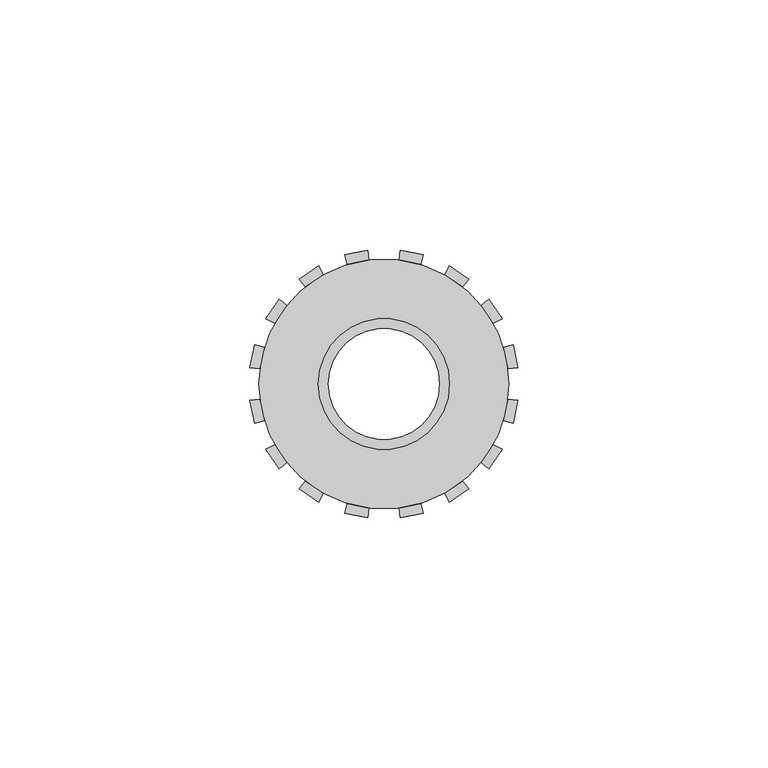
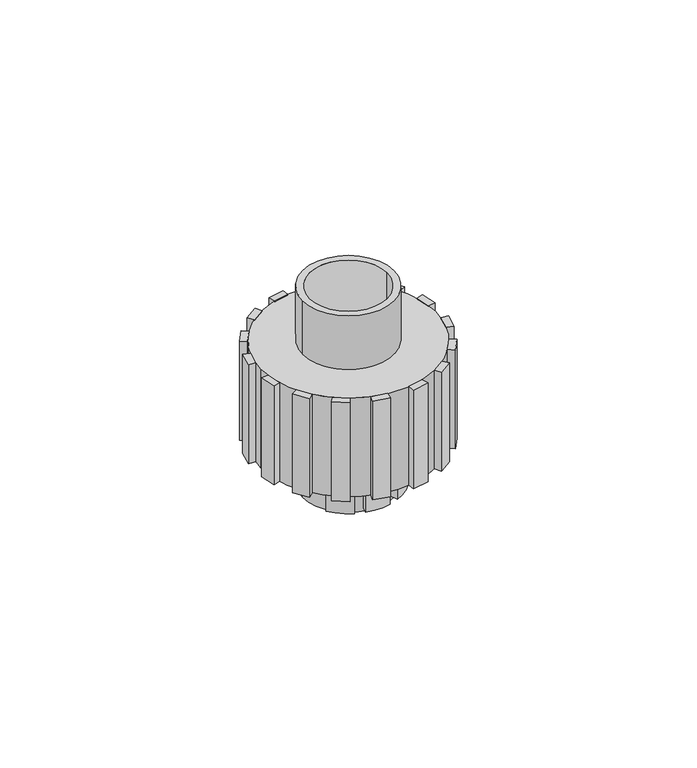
"""IFC4 building model written with IfcOpenShell, lengths in millimetres: valve geometry, Tuerca Union_Lubrizol_CPVC_FlowGuard_MX 19mm : Tuerca Union_Lubrizol_CPVC_FlowGuard_MX 19mm."""

from ifc_helpers import new_model, si_unit, point, frame, origin, origin_with_axes, origin_2d, place, context, project, spatial, polyline, circle_curve, trimmed, segment, composite_curve, outline, extrude, source, transform, mapped, element, save


def valve_8cdd0a93(model_context):
    return source(origin(), model_context, "Body", "SweptSolid", [
        extrude(outline(composite_curve([segment(polyline([(-3.0493554, 12.7401504), (-3.5671557, 14.6726071)]), True, "CONTINUOUS"), segment(trimmed(circle_curve(origin_2d(), 15.1), [point((-3.5671557, 14.6726071))], [point((3.5671557, 14.6726071))], False, "CARTESIAN"), True, "CONTINUOUS"), segment(polyline([(3.5671557, 14.6726071), (3.0493554, 12.7401504)]), True, "CONTINUOUS"), segment(trimmed(circle_curve(origin_2d(), 13.1), [point((3.0493554, 12.7401504))], [point((-3.0493554, 12.7401504))], True, "CARTESIAN"), True, "CONTINUOUS")], self_intersect=False)), frame((0.0, 0.0, 1.0184482), z_axis=(0.0, 0.0, 1.0), x_axis=(1.0, 0.0, 0.0)), (0.0, 0.0, 1.0), 12.0420847),
        extrude(outline(composite_curve([segment(trimmed(circle_curve(origin_2d(), 13.1), [point((-5.4406949, 11.9167462))], [point((-10.2465446, 8.1620048))], True, "CARTESIAN"), True, "CONTINUOUS"), segment(polyline([(-10.2465446, 8.1620048), (-11.844316, 9.3660119)]), True, "CONTINUOUS"), segment(trimmed(circle_curve(origin_2d(), 15.1), [point((-11.844316, 9.3660119))], [point((-6.2224019, 13.7583325))], False, "CARTESIAN"), True, "CONTINUOUS"), segment(polyline([(-6.2224019, 13.7583325), (-5.4406949, 11.9167462)]), True, "CONTINUOUS")], self_intersect=False)), frame((0.0, 0.0, 1.0184482), z_axis=(0.0, 0.0, 1.0), x_axis=(1.0, 0.0, 0.0)), (0.0, 0.0, 1.0), 12.0420847),
        extrude(outline(composite_curve([segment(polyline([(5.4406949, 11.9167462), (6.2224019, 13.7583325)]), True, "CONTINUOUS"), segment(trimmed(circle_curve(origin_2d(), 15.1), [point((6.2224019, 13.7583325))], [point((11.844316, 9.3660119))], False, "CARTESIAN"), True, "CONTINUOUS"), segment(polyline([(11.844316, 9.3660119), (10.2465446, 8.1620048)]), True, "CONTINUOUS"), segment(trimmed(circle_curve(origin_2d(), 13.1), [point((10.2465446, 8.1620048))], [point((5.4406949, 11.9167462))], True, "CARTESIAN"), True, "CONTINUOUS")], self_intersect=False)), frame((0.0, 0.0, 1.0184482), z_axis=(0.0, 0.0, 1.0), x_axis=(1.0, 0.0, 0.0)), (0.0, 0.0, 1.0), 12.0420847),
        extrude(outline(composite_curve([segment(trimmed(circle_curve(origin_2d(), 13.1), [point((-3.0493554, -12.7401504))], [point((3.0493554, -12.7401504))], True, "CARTESIAN"), True, "CONTINUOUS"), segment(polyline([(3.0493554, -12.7401504), (3.5671557, -14.6726071)]), True, "CONTINUOUS"), segment(trimmed(circle_curve(origin_2d(), 15.1), [point((3.5671557, -14.6726071))], [point((-3.5671557, -14.6726071))], False, "CARTESIAN"), True, "CONTINUOUS"), segment(polyline([(-3.5671557, -14.6726071), (-3.0493554, -12.7401504)]), True, "CONTINUOUS")], self_intersect=False)), frame((0.0, 0.0, 1.0184482), z_axis=(0.0, 0.0, 1.0), x_axis=(1.0, 0.0, 0.0)), (0.0, 0.0, 1.0), 12.0420847),
        extrude(outline(composite_curve([segment(polyline([(-5.4406949, -11.9167462), (-6.2224019, -13.7583325)]), True, "CONTINUOUS"), segment(trimmed(circle_curve(origin_2d(), 15.1), [point((-6.2224019, -13.7583325))], [point((-11.844316, -9.3660119))], False, "CARTESIAN"), True, "CONTINUOUS"), segment(polyline([(-11.844316, -9.3660119), (-10.2465446, -8.1620048)]), True, "CONTINUOUS"), segment(trimmed(circle_curve(origin_2d(), 13.1), [point((-10.2465446, -8.1620048))], [point((-5.4406949, -11.9167462))], True, "CARTESIAN"), True, "CONTINUOUS")], self_intersect=False)), frame((0.0, 0.0, 1.0184482), z_axis=(0.0, 0.0, 1.0), x_axis=(1.0, 0.0, 0.0)), (0.0, 0.0, 1.0), 12.0420847),
        extrude(outline(composite_curve([segment(trimmed(circle_curve(origin_2d(), 13.1), [point((5.4406949, -11.9167462))], [point((10.2465446, -8.1620048))], True, "CARTESIAN"), True, "CONTINUOUS"), segment(polyline([(10.2465446, -8.1620048), (11.844316, -9.3660119)]), True, "CONTINUOUS"), segment(trimmed(circle_curve(origin_2d(), 15.1), [point((11.844316, -9.3660119))], [point((6.2224019, -13.7583325))], False, "CARTESIAN"), True, "CONTINUOUS"), segment(polyline([(6.2224019, -13.7583325), (5.4406949, -11.9167462)]), True, "CONTINUOUS")], self_intersect=False)), frame((0.0, 0.0, 1.0184482), z_axis=(0.0, 0.0, 1.0), x_axis=(1.0, 0.0, 0.0)), (0.0, 0.0, 1.0), 12.0420847),
        extrude(outline(composite_curve([segment(polyline([(-15.7330098, 19.428649), (-16.9916506, 20.982941)]), True, "CONTINUOUS"), segment(trimmed(circle_curve(origin_2d(), 27.0), [point((-16.9916506, 20.982941))], [point((-13.0898597, 23.6147321))], False, "CARTESIAN"), True, "CONTINUOUS"), segment(polyline([(-13.0898597, 23.6147321), (-12.1202405, 21.8654927)]), True, "CONTINUOUS"), segment(trimmed(circle_curve(origin_2d(), 25.0), [point((-12.1202405, 21.8654927))], [point((-15.7330098, 19.428649))], True, "CARTESIAN"), True, "CONTINUOUS")], self_intersect=False)), frame((0.0, 0.0, 13.0605328), z_axis=(0.0, 0.0, 1.0), x_axis=(1.0, 0.0, 0.0)), (0.0, 0.0, 1.0), 30.0),
        extrude(outline(composite_curve([segment(trimmed(circle_curve(origin_2d(), 25.0), [point((-3.0467336, 24.8136538))], [point((-7.3092926, 23.9076189))], True, "CARTESIAN"), True, "CONTINUOUS"), segment(polyline([(-7.3092926, 23.9076189), (-7.894036, 25.8202284)]), True, "CONTINUOUS"), segment(trimmed(circle_curve(origin_2d(), 27.0), [point((-7.894036, 25.8202284))], [point((-3.2904723, 26.7987461))], False, "CARTESIAN"), True, "CONTINUOUS"), segment(polyline([(-3.2904723, 26.7987461), (-3.0467336, 24.8136538)]), True, "CONTINUOUS")], self_intersect=False)), frame((0.0, 0.0, 13.0605328), z_axis=(0.0, 0.0, 1.0), x_axis=(1.0, 0.0, 0.0)), (0.0, 0.0, 1.0), 30.0),
        extrude(outline(composite_curve([segment(trimmed(circle_curve(origin_2d(), 25.0), [point((-19.428649, 15.7330098))], [point((-21.8654927, 12.1202405))], True, "CARTESIAN"), True, "CONTINUOUS"), segment(polyline([(-21.8654927, 12.1202405), (-23.6147321, 13.0898597)]), True, "CONTINUOUS"), segment(trimmed(circle_curve(origin_2d(), 27.0), [point((-23.6147321, 13.0898597))], [point((-20.982941, 16.9916506))], False, "CARTESIAN"), True, "CONTINUOUS"), segment(polyline([(-20.982941, 16.9916506), (-19.428649, 15.7330098)]), True, "CONTINUOUS")], self_intersect=False)), frame((0.0, 0.0, 13.0605328), z_axis=(0.0, 0.0, 1.0), x_axis=(1.0, 0.0, 0.0)), (0.0, 0.0, 1.0), 30.0),
        extrude(outline(composite_curve([segment(polyline([(-24.8136538, 3.0467336), (-26.7987461, 3.2904723)]), True, "CONTINUOUS"), segment(trimmed(circle_curve(origin_2d(), 27.0), [point((-26.7987461, 3.2904723))], [point((-25.8202284, 7.894036))], False, "CARTESIAN"), True, "CONTINUOUS"), segment(polyline([(-25.8202284, 7.894036), (-23.9076189, 7.3092926)]), True, "CONTINUOUS"), segment(trimmed(circle_curve(origin_2d(), 25.0), [point((-23.9076189, 7.3092926))], [point((-24.8136538, 3.0467336))], True, "CARTESIAN"), True, "CONTINUOUS")], self_intersect=False)), frame((0.0, 0.0, 13.0605328), z_axis=(0.0, 0.0, 1.0), x_axis=(1.0, 0.0, 0.0)), (0.0, 0.0, 1.0), 30.0),
        extrude(outline(composite_curve([segment(trimmed(circle_curve(origin_2d(), 25.0), [point((15.7330098, 19.428649))], [point((12.1202405, 21.8654927))], True, "CARTESIAN"), True, "CONTINUOUS"), segment(polyline([(12.1202405, 21.8654927), (13.0898597, 23.6147321)]), True, "CONTINUOUS"), segment(trimmed(circle_curve(origin_2d(), 27.0), [point((13.0898597, 23.6147321))], [point((16.9916506, 20.982941))], False, "CARTESIAN"), True, "CONTINUOUS"), segment(polyline([(16.9916506, 20.982941), (15.7330098, 19.428649)]), True, "CONTINUOUS")], self_intersect=False)), frame((0.0, 0.0, 13.0605328), z_axis=(0.0, 0.0, 1.0), x_axis=(1.0, 0.0, 0.0)), (0.0, 0.0, 1.0), 30.0),
        extrude(outline(composite_curve([segment(polyline([(3.0467336, 24.8136538), (3.2904723, 26.7987461)]), True, "CONTINUOUS"), segment(trimmed(circle_curve(origin_2d(), 27.0), [point((3.2904723, 26.7987461))], [point((7.894036, 25.8202284))], False, "CARTESIAN"), True, "CONTINUOUS"), segment(polyline([(7.894036, 25.8202284), (7.3092926, 23.9076189)]), True, "CONTINUOUS"), segment(trimmed(circle_curve(origin_2d(), 25.0), [point((7.3092926, 23.9076189))], [point((3.0467336, 24.8136538))], True, "CARTESIAN"), True, "CONTINUOUS")], self_intersect=False)), frame((0.0, 0.0, 13.0605328), z_axis=(0.0, 0.0, 1.0), x_axis=(1.0, 0.0, 0.0)), (0.0, 0.0, 1.0), 30.0),
        extrude(outline(composite_curve([segment(polyline([(19.428649, 15.7330098), (20.982941, 16.9916506)]), True, "CONTINUOUS"), segment(trimmed(circle_curve(origin_2d(), 27.0), [point((20.982941, 16.9916506))], [point((23.6147321, 13.0898597))], False, "CARTESIAN"), True, "CONTINUOUS"), segment(polyline([(23.6147321, 13.0898597), (21.8654927, 12.1202405)]), True, "CONTINUOUS"), segment(trimmed(circle_curve(origin_2d(), 25.0), [point((21.8654927, 12.1202405))], [point((19.428649, 15.7330098))], True, "CARTESIAN"), True, "CONTINUOUS")], self_intersect=False)), frame((0.0, 0.0, 13.0605328), z_axis=(0.0, 0.0, 1.0), x_axis=(1.0, 0.0, 0.0)), (0.0, 0.0, 1.0), 30.0),
        extrude(outline(composite_curve([segment(trimmed(circle_curve(origin_2d(), 25.0), [point((24.8136538, 3.0467336))], [point((23.9076189, 7.3092926))], True, "CARTESIAN"), True, "CONTINUOUS"), segment(polyline([(23.9076189, 7.3092926), (25.8202284, 7.894036)]), True, "CONTINUOUS"), segment(trimmed(circle_curve(origin_2d(), 27.0), [point((25.8202284, 7.894036))], [point((26.7987461, 3.2904723))], False, "CARTESIAN"), True, "CONTINUOUS"), segment(polyline([(26.7987461, 3.2904723), (24.8136538, 3.0467336)]), True, "CONTINUOUS")], self_intersect=False)), frame((0.0, 0.0, 13.0605328), z_axis=(0.0, 0.0, 1.0), x_axis=(1.0, 0.0, 0.0)), (0.0, 0.0, 1.0), 30.0),
        extrude(outline(composite_curve([segment(trimmed(circle_curve(origin_2d(), 25.0), [point((-15.7330098, -19.428649))], [point((-12.1202405, -21.8654927))], True, "CARTESIAN"), True, "CONTINUOUS"), segment(polyline([(-12.1202405, -21.8654927), (-13.0898597, -23.6147321)]), True, "CONTINUOUS"), segment(trimmed(circle_curve(origin_2d(), 27.0), [point((-13.0898597, -23.6147321))], [point((-16.9916506, -20.982941))], False, "CARTESIAN"), True, "CONTINUOUS"), segment(polyline([(-16.9916506, -20.982941), (-15.7330098, -19.428649)]), True, "CONTINUOUS")], self_intersect=False)), frame((0.0, 0.0, 13.0605328), z_axis=(0.0, 0.0, 1.0), x_axis=(1.0, 0.0, 0.0)), (0.0, 0.0, 1.0), 30.0),
        extrude(outline(composite_curve([segment(polyline([(-3.0467336, -24.8136538), (-3.2904723, -26.7987461)]), True, "CONTINUOUS"), segment(trimmed(circle_curve(origin_2d(), 27.0), [point((-3.2904723, -26.7987461))], [point((-7.894036, -25.8202284))], False, "CARTESIAN"), True, "CONTINUOUS"), segment(polyline([(-7.894036, -25.8202284), (-7.3092926, -23.9076189)]), True, "CONTINUOUS"), segment(trimmed(circle_curve(origin_2d(), 25.0), [point((-7.3092926, -23.9076189))], [point((-3.0467336, -24.8136538))], True, "CARTESIAN"), True, "CONTINUOUS")], self_intersect=False)), frame((0.0, 0.0, 13.0605328), z_axis=(0.0, 0.0, 1.0), x_axis=(1.0, 0.0, 0.0)), (0.0, 0.0, 1.0), 30.0),
        extrude(outline(composite_curve([segment(polyline([(-19.428649, -15.7330098), (-20.982941, -16.9916506)]), True, "CONTINUOUS"), segment(trimmed(circle_curve(origin_2d(), 27.0), [point((-20.982941, -16.9916506))], [point((-23.6147321, -13.0898597))], False, "CARTESIAN"), True, "CONTINUOUS"), segment(polyline([(-23.6147321, -13.0898597), (-21.8654927, -12.1202405)]), True, "CONTINUOUS"), segment(trimmed(circle_curve(origin_2d(), 25.0), [point((-21.8654927, -12.1202405))], [point((-19.428649, -15.7330098))], True, "CARTESIAN"), True, "CONTINUOUS")], self_intersect=False)), frame((0.0, 0.0, 13.0605328), z_axis=(0.0, 0.0, 1.0), x_axis=(1.0, 0.0, 0.0)), (0.0, 0.0, 1.0), 30.0),
        extrude(outline(composite_curve([segment(trimmed(circle_curve(origin_2d(), 25.0), [point((-24.8136538, -3.0467336))], [point((-23.9076189, -7.3092926))], True, "CARTESIAN"), True, "CONTINUOUS"), segment(polyline([(-23.9076189, -7.3092926), (-25.8202284, -7.894036)]), True, "CONTINUOUS"), segment(trimmed(circle_curve(origin_2d(), 27.0), [point((-25.8202284, -7.894036))], [point((-26.7987461, -3.2904723))], False, "CARTESIAN"), True, "CONTINUOUS"), segment(polyline([(-26.7987461, -3.2904723), (-24.8136538, -3.0467336)]), True, "CONTINUOUS")], self_intersect=False)), frame((0.0, 0.0, 13.0605328), z_axis=(0.0, 0.0, 1.0), x_axis=(1.0, 0.0, 0.0)), (0.0, 0.0, 1.0), 30.0),
        extrude(outline(composite_curve([segment(polyline([(15.7330098, -19.428649), (16.9916506, -20.982941)]), True, "CONTINUOUS"), segment(trimmed(circle_curve(origin_2d(), 27.0), [point((16.9916506, -20.982941))], [point((13.0898597, -23.6147321))], False, "CARTESIAN"), True, "CONTINUOUS"), segment(polyline([(13.0898597, -23.6147321), (12.1202405, -21.8654927)]), True, "CONTINUOUS"), segment(trimmed(circle_curve(origin_2d(), 25.0), [point((12.1202405, -21.8654927))], [point((15.7330098, -19.428649))], True, "CARTESIAN"), True, "CONTINUOUS")], self_intersect=False)), frame((0.0, 0.0, 13.0605328), z_axis=(0.0, 0.0, 1.0), x_axis=(1.0, 0.0, 0.0)), (0.0, 0.0, 1.0), 30.0),
        extrude(outline(composite_curve([segment(trimmed(circle_curve(origin_2d(), 25.0), [point((3.0467336, -24.8136538))], [point((7.3092926, -23.9076189))], True, "CARTESIAN"), True, "CONTINUOUS"), segment(polyline([(7.3092926, -23.9076189), (7.894036, -25.8202284)]), True, "CONTINUOUS"), segment(trimmed(circle_curve(origin_2d(), 27.0), [point((7.894036, -25.8202284))], [point((3.2904723, -26.7987461))], False, "CARTESIAN"), True, "CONTINUOUS"), segment(polyline([(3.2904723, -26.7987461), (3.0467336, -24.8136538)]), True, "CONTINUOUS")], self_intersect=False)), frame((0.0, 0.0, 13.0605328), z_axis=(0.0, 0.0, 1.0), x_axis=(1.0, 0.0, 0.0)), (0.0, 0.0, 1.0), 30.0),
        extrude(outline(composite_curve([segment(trimmed(circle_curve(origin_2d(), 25.0), [point((19.428649, -15.7330098))], [point((21.8654927, -12.1202405))], True, "CARTESIAN"), True, "CONTINUOUS"), segment(polyline([(21.8654927, -12.1202405), (23.6147321, -13.0898597)]), True, "CONTINUOUS"), segment(trimmed(circle_curve(origin_2d(), 27.0), [point((23.6147321, -13.0898597))], [point((20.982941, -16.9916506))], False, "CARTESIAN"), True, "CONTINUOUS"), segment(polyline([(20.982941, -16.9916506), (19.428649, -15.7330098)]), True, "CONTINUOUS")], self_intersect=False)), frame((0.0, 0.0, 13.0605328), z_axis=(0.0, 0.0, 1.0), x_axis=(1.0, 0.0, 0.0)), (0.0, 0.0, 1.0), 30.0),
        extrude(outline(composite_curve([segment(polyline([(24.8136538, -3.0467336), (26.7987461, -3.2904723)]), True, "CONTINUOUS"), segment(trimmed(circle_curve(origin_2d(), 27.0), [point((26.7987461, -3.2904723))], [point((25.8202284, -7.894036))], False, "CARTESIAN"), True, "CONTINUOUS"), segment(polyline([(25.8202284, -7.894036), (23.9076189, -7.3092926)]), True, "CONTINUOUS"), segment(trimmed(circle_curve(origin_2d(), 25.0), [point((23.9076189, -7.3092926))], [point((24.8136538, -3.0467336))], True, "CARTESIAN"), True, "CONTINUOUS")], self_intersect=False)), frame((0.0, 0.0, 13.0605328), z_axis=(0.0, 0.0, 1.0), x_axis=(1.0, 0.0, 0.0)), (0.0, 0.0, 1.0), 30.0),
        extrude(outline(composite_curve([segment(trimmed(circle_curve(origin_2d(), 13.1), [point((-13.1, 0.0))], [point((13.1, 0.0))], False, "CARTESIAN"), True, "CONTINUOUS"), segment(trimmed(circle_curve(origin_2d(), 13.1), [point((13.1, 0.0))], [point((-13.1, 0.0))], False, "CARTESIAN"), True, "CONTINUOUS")], self_intersect=False), holes=[composite_curve([segment(trimmed(circle_curve(origin_2d(), 11.1), [point((-11.1, 0.0))], [point((11.1, 0.0))], True, "CARTESIAN"), True, "CONTINUOUS"), segment(trimmed(circle_curve(origin_2d(), 11.1), [point((11.1, 0.0))], [point((-11.1, 0.0))], True, "CARTESIAN"), True, "CONTINUOUS")], self_intersect=False)]), origin_with_axes(), (0.0, 0.0, 1.0), 13.0605328),
        extrude(outline(composite_curve([segment(trimmed(circle_curve(origin_2d(), 25.0), [point((-25.0, 0.0))], [point((25.0, 0.0))], False, "CARTESIAN"), True, "CONTINUOUS"), segment(trimmed(circle_curve(origin_2d(), 25.0), [point((25.0, 0.0))], [point((-25.0, 0.0))], False, "CARTESIAN"), True, "CONTINUOUS")], self_intersect=False), holes=[composite_curve([segment(trimmed(circle_curve(origin_2d(), 11.1), [point((-11.1, 0.0))], [point((11.1, 0.0))], True, "CARTESIAN"), True, "CONTINUOUS"), segment(trimmed(circle_curve(origin_2d(), 11.1), [point((11.1, 0.0))], [point((-11.1, 0.0))], True, "CARTESIAN"), True, "CONTINUOUS")], self_intersect=False)]), frame((0.0, 0.0, 13.0605328), z_axis=(0.0, 0.0, 1.0), x_axis=(1.0, 0.0, 0.0)), (0.0, 0.0, 1.0), 30.0),
        extrude(outline(composite_curve([segment(trimmed(circle_curve(origin_2d(), 13.1), [point((-13.1, 0.0))], [point((13.1, 0.0))], False, "CARTESIAN"), True, "CONTINUOUS"), segment(trimmed(circle_curve(origin_2d(), 13.1), [point((13.1, 0.0))], [point((-13.1, 0.0))], False, "CARTESIAN"), True, "CONTINUOUS")], self_intersect=False), holes=[composite_curve([segment(trimmed(circle_curve(origin_2d(), 11.1), [point((-11.1, 0.0))], [point((11.1, 0.0))], True, "CARTESIAN"), True, "CONTINUOUS"), segment(trimmed(circle_curve(origin_2d(), 11.1), [point((11.1, 0.0))], [point((-11.1, 0.0))], True, "CARTESIAN"), True, "CONTINUOUS")], self_intersect=False)]), frame((0.0, 0.0, 43.0605328), z_axis=(0.0, 0.0, 1.0), x_axis=(1.0, 0.0, 0.0)), (0.0, 0.0, 1.0), 16.5641824),
    ])


if __name__ == "__main__":
    model = new_model("IFC4")
    model_context = context("Model", 3, world=origin())
    ifc_project = project(units=[si_unit("LENGTHUNIT", "METRE", prefix="MILLI")], contexts=[model_context])
    site = spatial("IfcSite", under=ifc_project)
    building = spatial("IfcBuilding", under=site)
    placement = place(None, origin())
    valve_shape = valve_8cdd0a93(model_context)
    element("IfcValve", 1, ObjectType="Tuerca Union_Lubrizol_CPVC_FlowGuard_MX 19mm : Tuerca Union_Lubrizol_CPVC_FlowGuard_MX 19mm", at=placement, inside=building, context=model_context, shape_type="MappedRepresentation", body=[
        mapped(valve_shape, transform((0.0, 0.0, 0.0), x_axis=(1.0, 0.0, 0.0), y_axis=(0.0, 1.0, 0.0), z_axis=(0.0, 0.0, 1.0))),
    ])
    save(model, "model.ifc")
